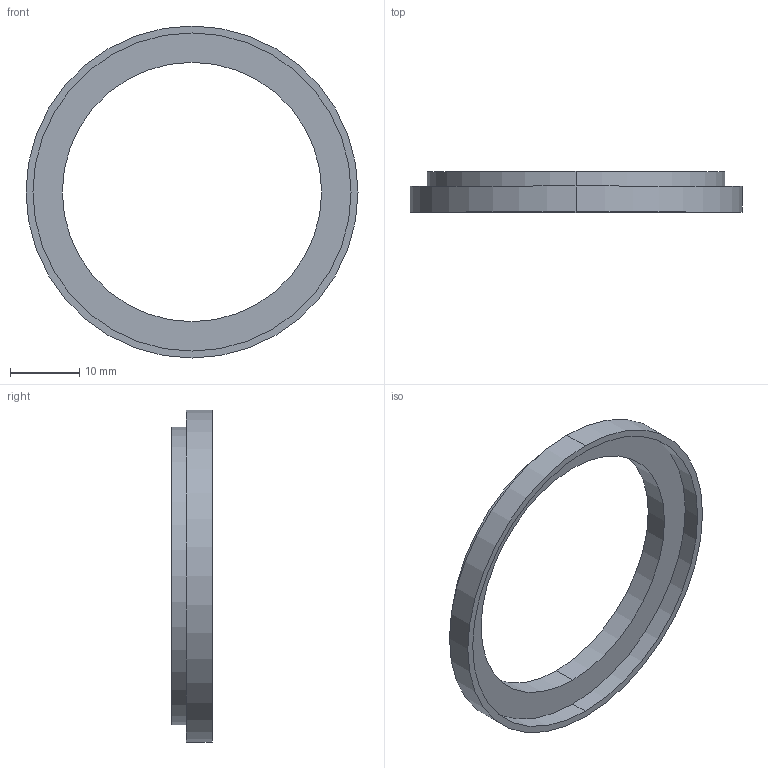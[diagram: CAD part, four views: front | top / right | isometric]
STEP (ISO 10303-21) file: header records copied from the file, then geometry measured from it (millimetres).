
FILE_DESCRIPTION (( 'STEP AP214' ), '1' );
FILE_NAME ('SU43-46.STEP', '2019-04-03T14:57:29', ( '' ), ( '' ), 'SwSTEP 2.0', 'SolidWorks 2019', '' );
FILE_SCHEMA (( 'AUTOMOTIVE_DESIGN' ));
Length unit declared in the file: millimetre
Products named in the file (1): SU43-46
Bounding box: 48 x 5.85 x 48 mm (x, y, z)
Volume: 1964 mm3; surface area: 3016.1 mm2
Topology: 1 solids, 1 shells, 12 faces, 24 edges, 16 vertices
Faces by surface type: cylinder 8, plane 4
Entity records: 362 total; most frequent: DIRECTION 66, CARTESIAN_POINT 53, ORIENTED_EDGE 48, AXIS2_PLACEMENT_3D 29, EDGE_CURVE 24, EDGE_LOOP 16, VERTEX_POINT 16, CIRCLE 16
